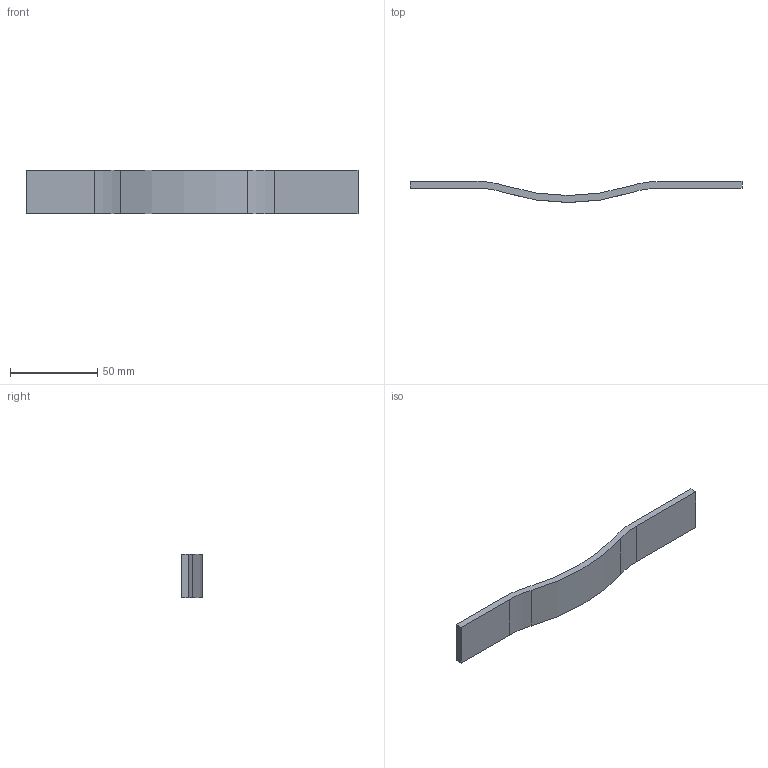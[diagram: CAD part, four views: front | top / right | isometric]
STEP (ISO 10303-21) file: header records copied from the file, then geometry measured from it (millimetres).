
FILE_DESCRIPTION( ( '' ), '1' );
FILE_NAME( 'D:/1.AUTOCAD EXPORT/Group 10/sheet_10_1/9071836.stp', '2013-10-18T04:37:38', ( '' ), ( '' ), ' ', ' ', ' ' );
FILE_SCHEMA( ( 'automotive_design' ) );
Length unit declared in the file: millimetre
Products named in the file (1): 1
Bounding box: 190 x 12.09 x 25 mm (x, y, z)
Volume: 18804.4 mm3; surface area: 11414.8 mm2
Topology: 1 solids, 1 shells, 20 faces, 48 edges, 32 vertices
Faces by surface type: cylinder 10, plane 10
Entity records: 1176 total; most frequent: DIRECTION 110, STYLED_ITEM 101, PRESENTATION_STYLE_ASSIGNMENT 101, CARTESIAN_POINT 101, COLOUR_RGB 101, ORIENTED_EDGE 96, EDGE_CURVE 48, CURVE_STYLE 48
